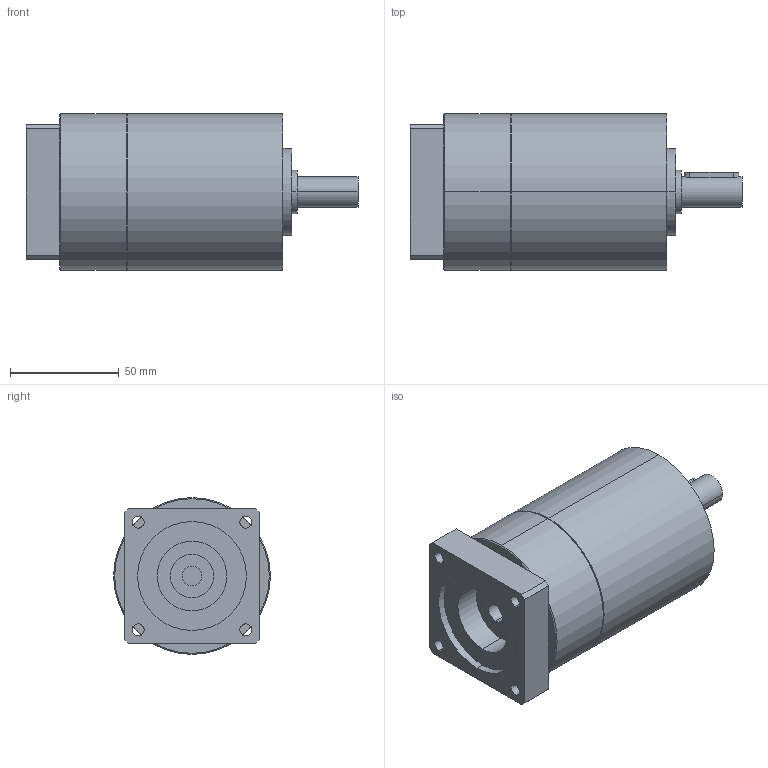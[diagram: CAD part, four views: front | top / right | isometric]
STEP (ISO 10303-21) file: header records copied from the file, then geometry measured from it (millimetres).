
FILE_DESCRIPTION(('CoCreate Modeling STEP Export'),'2;1');
FILE_NAME('GPT75_ig-9-12-16-20-25-28-35-40-50-70-100_14_B14T_9_P23.stp','2014-08-27T13:27:27',(''),(''),'CoCreate Modeling STEP processor for AP214 (Solid Model)','CoCreate Modeling 16.00C 25-Feb-2009 (C) Parametric Technology GmbH','');
FILE_SCHEMA(('AUTOMOTIVE_DESIGN { 1 0 10303 214 1 1 1 1 }'));
Length unit declared in the file: millimetre
Products named in the file (2): GPT75_ig-9-12-16-20-25-28-35-40-50-70-100_14_B14T_9_P23
Assembly tree (1 placements, depth 2):
  GPT75_ig-9-12-16-20-25-28-35-40-50-70-100_14_B14T_9_P23
    GPT75_ig-9-12-16-20-25-28-35-40-50-70-100_14_B14T_9_P23
Bounding box: 152.5 x 72 x 72 mm (x, y, z)
Volume: 467167.7 mm3; surface area: 42506.5 mm2
Topology: 1 solids, 1 shells, 80 faces, 198 edges, 129 vertices
Faces by surface type: cylinder 42, plane 34, cone 4
Entity records: 2353 total; most frequent: CARTESIAN_POINT 689, ORIENTED_EDGE 396, DIRECTION 276, EDGE_CURVE 198, VERTEX_POINT 129, AXIS2_PLACEMENT_3D 104, EDGE_LOOP 97, FACE_OUTER_BOUND 80
